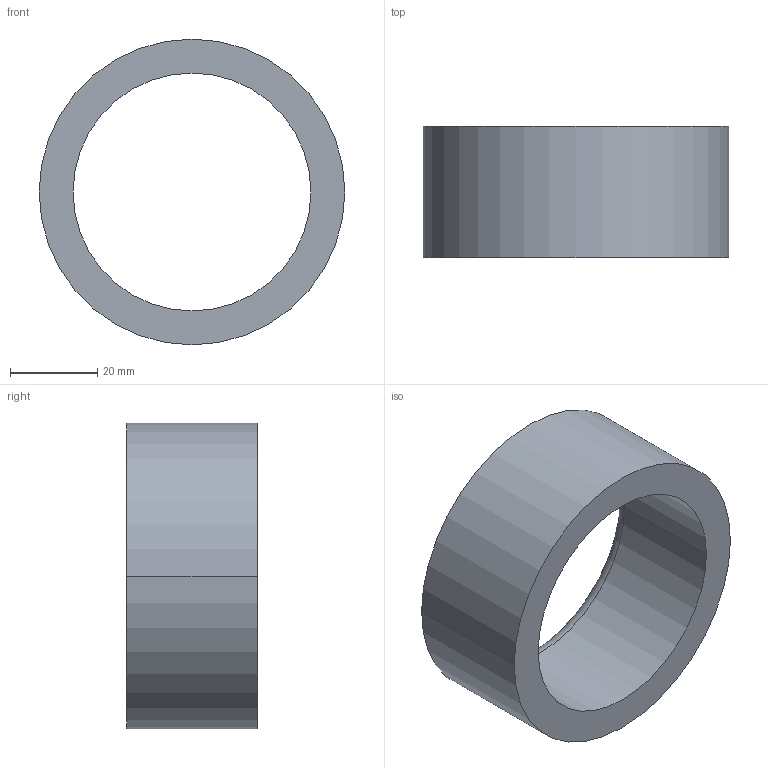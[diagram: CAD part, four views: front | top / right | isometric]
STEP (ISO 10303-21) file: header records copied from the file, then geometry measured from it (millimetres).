
FILE_DESCRIPTION (( 'STEP AP203' ), '1' );
FILE_NAME ('30800.WPP70L54.5.step', '2019-01-23T23:01:27', ( '' ), ( '' ), 'SwSTEP 2.0', 'SolidWorks 2017', '' );
FILE_SCHEMA (( 'CONFIG_CONTROL_DESIGN' ));
Length unit declared in the file: millimetre
Products named in the file (1): 30800.WPP70L54.5
Bounding box: 70 x 30 x 70 mm (x, y, z)
Volume: 45005.6 mm3; surface area: 14513.3 mm2
Topology: 1 solids, 1 shells, 8 faces, 16 edges, 10 vertices
Faces by surface type: cylinder 4, torus 2, plane 2
Entity records: 297 total; most frequent: DIRECTION 46, CARTESIAN_POINT 35, ORIENTED_EDGE 32, AXIS2_PLACEMENT_3D 21, EDGE_CURVE 16, CIRCLE 12, VERTEX_POINT 10, EDGE_LOOP 10
